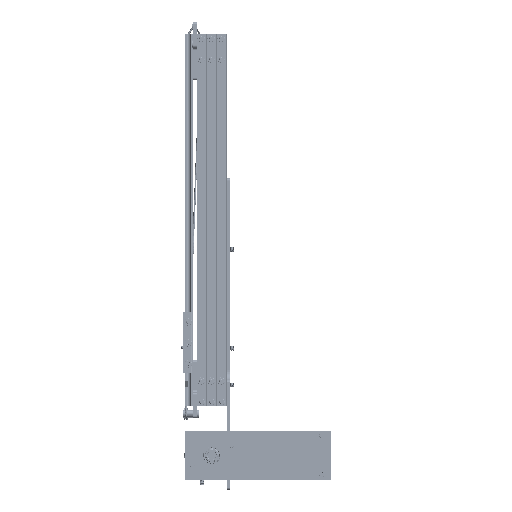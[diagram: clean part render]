
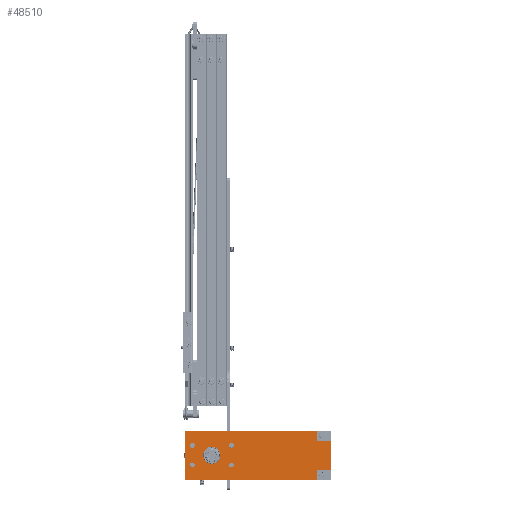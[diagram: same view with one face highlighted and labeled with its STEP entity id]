
A CAD part, front view. The second image highlights one B-rep face of the part: STEP entity #48510.
In plain terms, the highlighted planar face has unit normal (0, -1, 0) as drawn and (0, 0, -1) by its records, which use the part's own axes.
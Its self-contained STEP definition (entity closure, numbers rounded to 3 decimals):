
#48394=CARTESIAN_POINT('',(60.,60.,-3.));
#48395=DIRECTION('',(1.,0.,0.));
#48396=DIRECTION('',(0.,0.,1.));
#48397=AXIS2_PLACEMENT_3D('',#48394,#48396,#48395);
#48398=PLANE('',#48397);
#48399=CARTESIAN_POINT('',(0.,0.,-3.));
#48400=VERTEX_POINT('',#48399);
#48401=CARTESIAN_POINT('',(40.,0.,-3.));
#48402=VERTEX_POINT('',#48401);
#48403=CARTESIAN_POINT('',(0.,0.,-3.));
#48404=DIRECTION('',(1.,0.,0.));
#48405=VECTOR('',#48404,40.);
#48406=LINE('',#48403,#48405);
#48407=EDGE_CURVE('',#48400,#48402,#48406,.T.);
#48408=ORIENTED_EDGE('E5',*,*,#48407,.T.);
#48409=CARTESIAN_POINT('',(40.,120.,-3.));
#48410=VERTEX_POINT('',#48409);
#48411=CARTESIAN_POINT('',(40.,0.,-3.));
#48412=DIRECTION('',(0.,1.,0.));
#48413=VECTOR('',#48412,120.);
#48414=LINE('',#48411,#48413);
#48415=EDGE_CURVE('',#48402,#48410,#48414,.T.);
#48416=ORIENTED_EDGE('E6',*,*,#48415,.T.);
#48417=CARTESIAN_POINT('',(0.,120.,-3.));
#48418=VERTEX_POINT('',#48417);
#48419=CARTESIAN_POINT('',(40.,120.,-3.));
#48420=DIRECTION('',(-1.,0.,0.));
#48421=VECTOR('',#48420,40.);
#48422=LINE('',#48419,#48421);
#48423=EDGE_CURVE('',#48410,#48418,#48422,.T.);
#48424=ORIENTED_EDGE('E7',*,*,#48423,.T.);
#48425=CARTESIAN_POINT('',(0.,120.,-3.));
#48426=DIRECTION('',(0.,-1.,0.));
#48427=VECTOR('',#48426,120.);
#48428=LINE('',#48425,#48427);
#48429=EDGE_CURVE('',#48418,#48400,#48428,.T.);
#48430=ORIENTED_EDGE('E8',*,*,#48429,.T.);
#48431=EDGE_LOOP('',(#48408,#48416,#48424,#48430));
#48432=FACE_OUTER_BOUND('',#48431,.F.);
#48433=CARTESIAN_POINT('',(5.65,8.,-3.));
#48434=VERTEX_POINT('',#48433);
#48435=CARTESIAN_POINT('',(4.,8.,-3.));
#48436=DIRECTION('',(1.,0.,0.));
#48437=DIRECTION('',(0.,0.,-1.));
#48438=AXIS2_PLACEMENT_3D('',#48435,#48437,#48436);
#48439=CIRCLE('',#48438,1.65);
#48440=EDGE_CURVE('',#48434,#48434,#48439,.T.);
#48441=ORIENTED_EDGE('E14',*,*,#48440,.T.);
#48442=EDGE_LOOP('',(#48441));
#48443=FACE_BOUND('',#48442,.F.);
#48444=CARTESIAN_POINT('',(30.,81.846,-3.));
#48445=VERTEX_POINT('',#48444);
#48446=CARTESIAN_POINT('',(28.,81.846,-3.));
#48447=DIRECTION('',(1.,0.,0.));
#48448=DIRECTION('',(0.,0.,-1.));
#48449=AXIS2_PLACEMENT_3D('',#48446,#48448,#48447);
#48450=CIRCLE('',#48449,2.);
#48451=EDGE_CURVE('',#48445,#48445,#48450,.T.);
#48452=ORIENTED_EDGE('E17',*,*,#48451,.T.);
#48453=EDGE_LOOP('',(#48452));
#48454=FACE_BOUND('',#48453,.F.);
#48455=CARTESIAN_POINT('',(30.,113.846,-3.));
#48456=VERTEX_POINT('',#48455);
#48457=CARTESIAN_POINT('',(28.,113.846,-3.));
#48458=DIRECTION('',(1.,0.,0.));
#48459=DIRECTION('',(0.,0.,-1.));
#48460=AXIS2_PLACEMENT_3D('',#48457,#48459,#48458);
#48461=CIRCLE('',#48460,2.);
#48462=EDGE_CURVE('',#48456,#48456,#48461,.T.);
#48463=ORIENTED_EDGE('E20',*,*,#48462,.T.);
#48464=EDGE_LOOP('',(#48463));
#48465=FACE_BOUND('',#48464,.F.);
#48466=CARTESIAN_POINT('',(27.,97.846,-3.));
#48467=VERTEX_POINT('',#48466);
#48468=CARTESIAN_POINT('',(20.,97.846,-3.));
#48469=DIRECTION('',(1.,0.,0.));
#48470=DIRECTION('',(0.,0.,-1.));
#48471=AXIS2_PLACEMENT_3D('',#48468,#48470,#48469);
#48472=CIRCLE('',#48471,7.);
#48473=EDGE_CURVE('',#48467,#48467,#48472,.T.);
#48474=ORIENTED_EDGE('E23',*,*,#48473,.T.);
#48475=EDGE_LOOP('',(#48474));
#48476=FACE_BOUND('',#48475,.F.);
#48477=CARTESIAN_POINT('',(14.,113.846,-3.));
#48478=VERTEX_POINT('',#48477);
#48479=CARTESIAN_POINT('',(12.,113.846,-3.));
#48480=DIRECTION('',(1.,0.,0.));
#48481=DIRECTION('',(0.,0.,-1.));
#48482=AXIS2_PLACEMENT_3D('',#48479,#48481,#48480);
#48483=CIRCLE('',#48482,2.);
#48484=EDGE_CURVE('',#48478,#48478,#48483,.T.);
#48485=ORIENTED_EDGE('E26',*,*,#48484,.T.);
#48486=EDGE_LOOP('',(#48485));
#48487=FACE_BOUND('',#48486,.F.);
#48488=CARTESIAN_POINT('',(14.,81.846,-3.));
#48489=VERTEX_POINT('',#48488);
#48490=CARTESIAN_POINT('',(12.,81.846,-3.));
#48491=DIRECTION('',(1.,0.,0.));
#48492=DIRECTION('',(0.,0.,-1.));
#48493=AXIS2_PLACEMENT_3D('',#48490,#48492,#48491);
#48494=CIRCLE('',#48493,2.);
#48495=EDGE_CURVE('',#48489,#48489,#48494,.T.);
#48496=ORIENTED_EDGE('E29',*,*,#48495,.T.);
#48497=EDGE_LOOP('',(#48496));
#48498=FACE_BOUND('',#48497,.F.);
#48499=CARTESIAN_POINT('',(37.65,8.,-3.));
#48500=VERTEX_POINT('',#48499);
#48501=CARTESIAN_POINT('',(36.,8.,-3.));
#48502=DIRECTION('',(1.,0.,0.));
#48503=DIRECTION('',(0.,0.,-1.));
#48504=AXIS2_PLACEMENT_3D('',#48501,#48503,#48502);
#48505=CIRCLE('',#48504,1.65);
#48506=EDGE_CURVE('',#48500,#48500,#48505,.T.);
#48507=ORIENTED_EDGE('E32',*,*,#48506,.T.);
#48508=EDGE_LOOP('',(#48507));
#48509=FACE_BOUND('',#48508,.F.);
#48510=ADVANCED_FACE('F2',(#48432,#48443,#48454,#48465,#48476,#48487,#48498,#48509),#48398,.F.);
